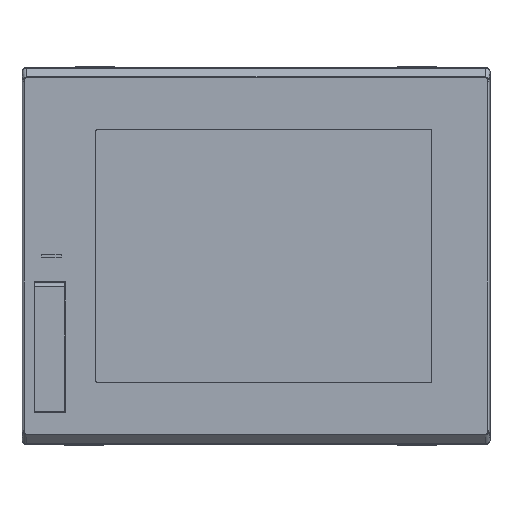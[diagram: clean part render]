
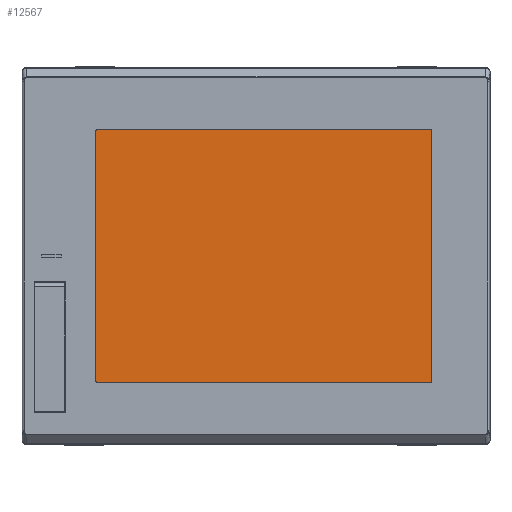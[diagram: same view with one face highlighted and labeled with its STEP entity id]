
A CAD part, top view. The second image highlights one B-rep face of the part: STEP entity #12567.
In plain terms, the highlighted planar face has unit normal (0, 0, 1).
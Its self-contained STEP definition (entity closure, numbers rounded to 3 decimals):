
#2783=CARTESIAN_POINT('',(-81.5,64.2,-0.1));
#2784=DIRECTION('',(0.,0.,-1.));
#2785=DIRECTION('',(-1.,0.,0.));
#2786=AXIS2_PLACEMENT_3D('',#2783,#2784,#2785);
#2788=DIRECTION('',(1.,0.,0.));
#2789=VECTOR('',#2788,171.);
#2790=CARTESIAN_POINT('',(-81.5,65.2,-0.1));
#2791=LINE('',#2790,#2789);
#2792=CARTESIAN_POINT('',(89.5,64.2,-0.1));
#2793=DIRECTION('',(0.,0.,-1.));
#2794=DIRECTION('',(0.,1.,0.));
#2795=AXIS2_PLACEMENT_3D('',#2792,#2793,#2794);
#2797=DIRECTION('',(0.,-1.,0.));
#2798=VECTOR('',#2797,128.4);
#2799=CARTESIAN_POINT('',(90.5,64.2,-0.1));
#2800=LINE('',#2799,#2798);
#2801=CARTESIAN_POINT('',(89.5,-64.2,-0.1));
#2802=DIRECTION('',(0.,0.,-1.));
#2803=DIRECTION('',(1.,0.,0.));
#2804=AXIS2_PLACEMENT_3D('',#2801,#2802,#2803);
#2806=DIRECTION('',(-1.,0.,0.));
#2807=VECTOR('',#2806,171.);
#2808=CARTESIAN_POINT('',(89.5,-65.2,-0.1));
#2809=LINE('',#2808,#2807);
#2810=CARTESIAN_POINT('',(-81.5,-64.2,-0.1));
#2811=DIRECTION('',(0.,0.,-1.));
#2812=DIRECTION('',(0.,-1.,0.));
#2813=AXIS2_PLACEMENT_3D('',#2810,#2811,#2812);
#2815=DIRECTION('',(0.,1.,0.));
#2816=VECTOR('',#2815,128.4);
#2817=CARTESIAN_POINT('',(-82.5,-64.2,-0.1));
#2818=LINE('',#2817,#2816);
#8178=CARTESIAN_POINT('',(-81.5,65.2,-0.1));
#8179=CARTESIAN_POINT('',(89.5,65.2,-0.1));
#8180=VERTEX_POINT('',#8178);
#8181=VERTEX_POINT('',#8179);
#8182=CARTESIAN_POINT('',(-82.5,64.2,-0.1));
#8183=VERTEX_POINT('',#8182);
#8184=CARTESIAN_POINT('',(90.5,64.2,-0.1));
#8185=VERTEX_POINT('',#8184);
#8186=CARTESIAN_POINT('',(90.5,-64.2,-0.1));
#8187=VERTEX_POINT('',#8186);
#8188=CARTESIAN_POINT('',(89.5,-65.2,-0.1));
#8189=VERTEX_POINT('',#8188);
#8190=CARTESIAN_POINT('',(-81.5,-65.2,-0.1));
#8191=VERTEX_POINT('',#8190);
#8192=CARTESIAN_POINT('',(-82.5,-64.2,-0.1));
#8193=VERTEX_POINT('',#8192);
#12545=CARTESIAN_POINT('',(4.,0.,-0.1));
#12546=DIRECTION('',(0.,0.,1.));
#12547=DIRECTION('',(1.,0.,0.));
#12548=AXIS2_PLACEMENT_3D('',#12545,#12546,#12547);
#12549=PLANE('',#12548);
#12551=ORIENTED_EDGE('',*,*,#12550,.T.);
#12552=ORIENTED_EDGE('',*,*,#12535,.T.);
#12554=ORIENTED_EDGE('',*,*,#12553,.T.);
#12556=ORIENTED_EDGE('',*,*,#12555,.T.);
#12558=ORIENTED_EDGE('',*,*,#12557,.T.);
#12560=ORIENTED_EDGE('',*,*,#12559,.T.);
#12562=ORIENTED_EDGE('',*,*,#12561,.T.);
#12564=ORIENTED_EDGE('',*,*,#12563,.T.);
#12565=EDGE_LOOP('',(#12551,#12552,#12554,#12556,#12558,#12560,#12562,#12564));
#12566=FACE_OUTER_BOUND('',#12565,.F.);
#12567=ADVANCED_FACE('',(#12566),#12549,.T.);
#2787=CIRCLE('',#2786,1.);
#2796=CIRCLE('',#2795,1.);
#2805=CIRCLE('',#2804,1.);
#2814=CIRCLE('',#2813,1.);
#12535=EDGE_CURVE('',#8180,#8181,#2791,.T.);
#12550=EDGE_CURVE('',#8183,#8180,#2787,.T.);
#12553=EDGE_CURVE('',#8181,#8185,#2796,.T.);
#12555=EDGE_CURVE('',#8185,#8187,#2800,.T.);
#12557=EDGE_CURVE('',#8187,#8189,#2805,.T.);
#12559=EDGE_CURVE('',#8189,#8191,#2809,.T.);
#12561=EDGE_CURVE('',#8191,#8193,#2814,.T.);
#12563=EDGE_CURVE('',#8193,#8183,#2818,.T.);
